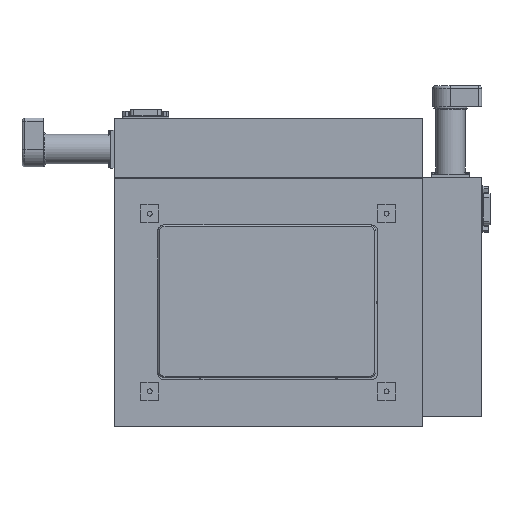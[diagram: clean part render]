
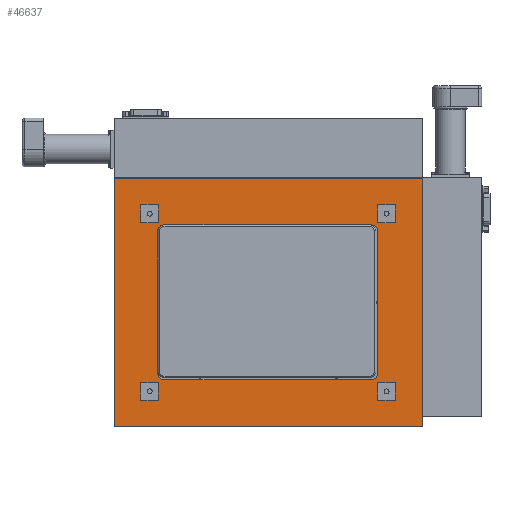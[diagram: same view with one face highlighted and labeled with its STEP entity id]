
A CAD part, top view. The second image highlights one B-rep face of the part: STEP entity #46637.
In plain terms, the highlighted planar face has unit normal (0, 0, 1).
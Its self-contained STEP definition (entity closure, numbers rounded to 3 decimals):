
#2560=FACE_BOUND('',#9785,.T.);
#2561=FACE_BOUND('',#9786,.T.);
#2562=FACE_BOUND('',#9787,.T.);
#2563=FACE_BOUND('',#9788,.T.);
#2564=FACE_BOUND('',#9789,.T.);
#4367=CIRCLE('',#50813,5.);
#4368=CIRCLE('',#50814,5.);
#4369=CIRCLE('',#50815,5.);
#4370=CIRCLE('',#50816,5.);
#6812=FACE_OUTER_BOUND('',#9784,.T.);
#9784=EDGE_LOOP('',(#39907,#39908,#39909,#39910));
#9785=EDGE_LOOP('',(#39911,#39912,#39913,#39914));
#9786=EDGE_LOOP('',(#39915,#39916,#39917,#39918));
#9787=EDGE_LOOP('',(#39919,#39920,#39921,#39922));
#9788=EDGE_LOOP('',(#39923,#39924,#39925,#39926));
#9789=EDGE_LOOP('',(#39927,#39928,#39929,#39930,#39931,#39932,#39933,#39934));
#13351=LINE('',#82274,#16966);
#13352=LINE('',#82276,#16967);
#13353=LINE('',#82278,#16968);
#13354=LINE('',#82279,#16969);
#13355=LINE('',#82282,#16970);
#13356=LINE('',#82284,#16971);
#13357=LINE('',#82286,#16972);
#13358=LINE('',#82287,#16973);
#13359=LINE('',#82290,#16974);
#13360=LINE('',#82292,#16975);
#13361=LINE('',#82294,#16976);
#13362=LINE('',#82295,#16977);
#13363=LINE('',#82298,#16978);
#13364=LINE('',#82300,#16979);
#13365=LINE('',#82302,#16980);
#13366=LINE('',#82303,#16981);
#13367=LINE('',#82306,#16982);
#13368=LINE('',#82308,#16983);
#13369=LINE('',#82310,#16984);
#13370=LINE('',#82311,#16985);
#13371=LINE('',#82314,#16986);
#13372=LINE('',#82318,#16987);
#13373=LINE('',#82322,#16988);
#13374=LINE('',#82326,#16989);
#16966=VECTOR('',#62075,10.);
#16967=VECTOR('',#62076,10.);
#16968=VECTOR('',#62077,10.);
#16969=VECTOR('',#62078,10.);
#16970=VECTOR('',#62079,10.);
#16971=VECTOR('',#62080,10.);
#16972=VECTOR('',#62081,10.);
#16973=VECTOR('',#62082,10.);
#16974=VECTOR('',#62083,10.);
#16975=VECTOR('',#62084,10.);
#16976=VECTOR('',#62085,10.);
#16977=VECTOR('',#62086,10.);
#16978=VECTOR('',#62087,10.);
#16979=VECTOR('',#62088,10.);
#16980=VECTOR('',#62089,10.);
#16981=VECTOR('',#62090,10.);
#16982=VECTOR('',#62091,10.);
#16983=VECTOR('',#62092,10.);
#16984=VECTOR('',#62093,10.);
#16985=VECTOR('',#62094,10.);
#16986=VECTOR('',#62095,10.);
#16987=VECTOR('',#62098,10.);
#16988=VECTOR('',#62101,10.);
#16989=VECTOR('',#62104,10.);
#21254=VERTEX_POINT('',#82272);
#21255=VERTEX_POINT('',#82273);
#21256=VERTEX_POINT('',#82275);
#21257=VERTEX_POINT('',#82277);
#21258=VERTEX_POINT('',#82280);
#21259=VERTEX_POINT('',#82281);
#21260=VERTEX_POINT('',#82283);
#21261=VERTEX_POINT('',#82285);
#21262=VERTEX_POINT('',#82288);
#21263=VERTEX_POINT('',#82289);
#21264=VERTEX_POINT('',#82291);
#21265=VERTEX_POINT('',#82293);
#21266=VERTEX_POINT('',#82296);
#21267=VERTEX_POINT('',#82297);
#21268=VERTEX_POINT('',#82299);
#21269=VERTEX_POINT('',#82301);
#21270=VERTEX_POINT('',#82304);
#21271=VERTEX_POINT('',#82305);
#21272=VERTEX_POINT('',#82307);
#21273=VERTEX_POINT('',#82309);
#21274=VERTEX_POINT('',#82312);
#21275=VERTEX_POINT('',#82313);
#21276=VERTEX_POINT('',#82315);
#21277=VERTEX_POINT('',#82317);
#21278=VERTEX_POINT('',#82319);
#21279=VERTEX_POINT('',#82321);
#21280=VERTEX_POINT('',#82323);
#21281=VERTEX_POINT('',#82325);
#27499=EDGE_CURVE('',#21254,#21255,#13351,.T.);
#27500=EDGE_CURVE('',#21256,#21254,#13352,.T.);
#27501=EDGE_CURVE('',#21257,#21256,#13353,.T.);
#27502=EDGE_CURVE('',#21255,#21257,#13354,.T.);
#27503=EDGE_CURVE('',#21258,#21259,#13355,.T.);
#27504=EDGE_CURVE('',#21260,#21258,#13356,.T.);
#27505=EDGE_CURVE('',#21261,#21260,#13357,.T.);
#27506=EDGE_CURVE('',#21259,#21261,#13358,.T.);
#27507=EDGE_CURVE('',#21262,#21263,#13359,.T.);
#27508=EDGE_CURVE('',#21264,#21262,#13360,.T.);
#27509=EDGE_CURVE('',#21265,#21264,#13361,.T.);
#27510=EDGE_CURVE('',#21263,#21265,#13362,.T.);
#27511=EDGE_CURVE('',#21266,#21267,#13363,.T.);
#27512=EDGE_CURVE('',#21268,#21266,#13364,.T.);
#27513=EDGE_CURVE('',#21269,#21268,#13365,.T.);
#27514=EDGE_CURVE('',#21267,#21269,#13366,.T.);
#27515=EDGE_CURVE('',#21270,#21271,#13367,.T.);
#27516=EDGE_CURVE('',#21272,#21270,#13368,.T.);
#27517=EDGE_CURVE('',#21273,#21272,#13369,.T.);
#27518=EDGE_CURVE('',#21271,#21273,#13370,.T.);
#27519=EDGE_CURVE('',#21274,#21275,#13371,.T.);
#27520=EDGE_CURVE('',#21275,#21276,#4367,.T.);
#27521=EDGE_CURVE('',#21276,#21277,#13372,.T.);
#27522=EDGE_CURVE('',#21277,#21278,#4368,.T.);
#27523=EDGE_CURVE('',#21278,#21279,#13373,.T.);
#27524=EDGE_CURVE('',#21279,#21280,#4369,.T.);
#27525=EDGE_CURVE('',#21280,#21281,#13374,.T.);
#27526=EDGE_CURVE('',#21281,#21274,#4370,.T.);
#39907=ORIENTED_EDGE('',*,*,#27499,.F.);
#39908=ORIENTED_EDGE('',*,*,#27500,.F.);
#39909=ORIENTED_EDGE('',*,*,#27501,.F.);
#39910=ORIENTED_EDGE('',*,*,#27502,.F.);
#39911=ORIENTED_EDGE('',*,*,#27503,.F.);
#39912=ORIENTED_EDGE('',*,*,#27504,.F.);
#39913=ORIENTED_EDGE('',*,*,#27505,.F.);
#39914=ORIENTED_EDGE('',*,*,#27506,.F.);
#39915=ORIENTED_EDGE('',*,*,#27507,.F.);
#39916=ORIENTED_EDGE('',*,*,#27508,.F.);
#39917=ORIENTED_EDGE('',*,*,#27509,.F.);
#39918=ORIENTED_EDGE('',*,*,#27510,.F.);
#39919=ORIENTED_EDGE('',*,*,#27511,.F.);
#39920=ORIENTED_EDGE('',*,*,#27512,.F.);
#39921=ORIENTED_EDGE('',*,*,#27513,.F.);
#39922=ORIENTED_EDGE('',*,*,#27514,.F.);
#39923=ORIENTED_EDGE('',*,*,#27515,.F.);
#39924=ORIENTED_EDGE('',*,*,#27516,.F.);
#39925=ORIENTED_EDGE('',*,*,#27517,.F.);
#39926=ORIENTED_EDGE('',*,*,#27518,.F.);
#39927=ORIENTED_EDGE('',*,*,#27519,.T.);
#39928=ORIENTED_EDGE('',*,*,#27520,.T.);
#39929=ORIENTED_EDGE('',*,*,#27521,.T.);
#39930=ORIENTED_EDGE('',*,*,#27522,.T.);
#39931=ORIENTED_EDGE('',*,*,#27523,.T.);
#39932=ORIENTED_EDGE('',*,*,#27524,.T.);
#39933=ORIENTED_EDGE('',*,*,#27525,.T.);
#39934=ORIENTED_EDGE('',*,*,#27526,.T.);
#41709=PLANE('',#50812);
#46637=ADVANCED_FACE('',(#6812,#2560,#2561,#2562,#2563,#2564),#41709,.T.);
#50812=AXIS2_PLACEMENT_3D('',#82271,#62073,#62074);
#50813=AXIS2_PLACEMENT_3D('',#82316,#62096,#62097);
#50814=AXIS2_PLACEMENT_3D('',#82320,#62099,#62100);
#50815=AXIS2_PLACEMENT_3D('',#82324,#62102,#62103);
#50816=AXIS2_PLACEMENT_3D('',#82327,#62105,#62106);
#62073=DIRECTION('center_axis',(0.,0.,
1.));
#62074=DIRECTION('ref_axis',(1.,0.,0.));
#62075=DIRECTION('',(0.,-1.,0.));
#62076=DIRECTION('',(1.,0.,0.));
#62077=DIRECTION('',(0.,1.,0.));
#62078=DIRECTION('',(-1.,0.,0.));
#62079=DIRECTION('',(-1.,0.,0.));
#62080=DIRECTION('',(0.,1.,0.));
#62081=DIRECTION('',(1.,0.,0.));
#62082=DIRECTION('',(0.,-1.,0.));
#62083=DIRECTION('',(-1.,0.,0.));
#62084=DIRECTION('',(0.,1.,0.));
#62085=DIRECTION('',(1.,0.,0.));
#62086=DIRECTION('',(0.,-1.,0.));
#62087=DIRECTION('',(-1.,0.,0.));
#62088=DIRECTION('',(0.,1.,0.));
#62089=DIRECTION('',(1.,0.,0.));
#62090=DIRECTION('',(0.,-1.,0.));
#62091=DIRECTION('',(-1.,0.,0.));
#62092=DIRECTION('',(0.,1.,0.));
#62093=DIRECTION('',(1.,0.,0.));
#62094=DIRECTION('',(0.,-1.,0.));
#62095=DIRECTION('',(0.,1.,0.));
#62096=DIRECTION('center_axis',(0.,0.,
-1.));
#62097=DIRECTION('ref_axis',(0.,1.,0.));
#62098=DIRECTION('',(1.,0.,0.));
#62099=DIRECTION('center_axis',(0.,0.,
-1.));
#62100=DIRECTION('ref_axis',(1.,0.,0.));
#62101=DIRECTION('',(0.,-1.,0.));
#62102=DIRECTION('center_axis',(0.,0.,
-1.));
#62103=DIRECTION('ref_axis',(0.,-1.,0.));
#62104=DIRECTION('',(-1.,0.,0.));
#62105=DIRECTION('center_axis',(0.,0.,
-1.));
#62106=DIRECTION('ref_axis',(-1.,0.,0.));
#82271=CARTESIAN_POINT('Origin',(0.,-0.25,
59.5));
#82272=CARTESIAN_POINT('',(130.,104.5,59.5));
#82273=CARTESIAN_POINT('',(130.,-105.,59.5));
#82274=CARTESIAN_POINT('',(130.,-0.25,59.5));
#82275=CARTESIAN_POINT('',(-130.,104.5,59.5));
#82276=CARTESIAN_POINT('',(-65.,104.5,59.5));
#82277=CARTESIAN_POINT('',(-130.,-105.,59.5));
#82278=CARTESIAN_POINT('',(-130.,-0.25,59.5));
#82279=CARTESIAN_POINT('',(-65.,-105.,59.5));
#82280=CARTESIAN_POINT('',(-92.5,82.,59.5));
#82281=CARTESIAN_POINT('',(-107.5,82.,59.5));
#82282=CARTESIAN_POINT('',(-46.25,82.,59.5));
#82283=CARTESIAN_POINT('',(-92.5,67.,59.5));
#82284=CARTESIAN_POINT('',(-92.5,33.375,59.5));
#82285=CARTESIAN_POINT('',(-107.5,67.,59.5));
#82286=CARTESIAN_POINT('',(-53.75,67.,59.5));
#82287=CARTESIAN_POINT('',(-107.5,40.875,59.5));
#82288=CARTESIAN_POINT('',(107.5,82.,59.5));
#82289=CARTESIAN_POINT('',(92.5,82.,59.5));
#82290=CARTESIAN_POINT('',(53.75,82.,59.5));
#82291=CARTESIAN_POINT('',(107.5,67.,59.5));
#82292=CARTESIAN_POINT('',(107.5,33.375,59.5));
#82293=CARTESIAN_POINT('',(92.5,67.,59.5));
#82294=CARTESIAN_POINT('',(46.25,67.,59.5));
#82295=CARTESIAN_POINT('',(92.5,40.875,59.5));
#82296=CARTESIAN_POINT('',(-92.5,-68.,59.5));
#82297=CARTESIAN_POINT('',(-107.5,-68.,59.5));
#82298=CARTESIAN_POINT('',(-46.25,-68.,59.5));
#82299=CARTESIAN_POINT('',(-92.5,-83.,59.5));
#82300=CARTESIAN_POINT('',(-92.5,-41.625,59.5));
#82301=CARTESIAN_POINT('',(-107.5,-83.,59.5));
#82302=CARTESIAN_POINT('',(-53.75,-83.,59.5));
#82303=CARTESIAN_POINT('',(-107.5,-34.125,59.5));
#82304=CARTESIAN_POINT('',(107.5,-68.,59.5));
#82305=CARTESIAN_POINT('',(92.5,-68.,59.5));
#82306=CARTESIAN_POINT('',(53.75,-68.,59.5));
#82307=CARTESIAN_POINT('',(107.5,-83.,59.5));
#82308=CARTESIAN_POINT('',(107.5,-41.625,59.5));
#82309=CARTESIAN_POINT('',(92.5,-83.,59.5));
#82310=CARTESIAN_POINT('',(46.25,-83.,59.5));
#82311=CARTESIAN_POINT('',(92.5,-34.125,59.5));
#82312=CARTESIAN_POINT('',(-93.,-60.5,59.5));
#82313=CARTESIAN_POINT('',(-93.,60.,59.5));
#82314=CARTESIAN_POINT('',(-93.,29.875,59.5));
#82315=CARTESIAN_POINT('',(-88.,65.,59.5));
#82316=CARTESIAN_POINT('Origin',(-88.,60.,59.5));
#82317=CARTESIAN_POINT('',(87.5,65.,59.5));
#82318=CARTESIAN_POINT('',(43.75,65.,59.5));
#82319=CARTESIAN_POINT('',(92.5,60.,59.5));
#82320=CARTESIAN_POINT('Origin',(87.5,60.,59.5));
#82321=CARTESIAN_POINT('',(92.5,-60.5,59.5));
#82322=CARTESIAN_POINT('',(92.5,-30.375,59.5));
#82323=CARTESIAN_POINT('',(87.5,-65.5,59.5));
#82324=CARTESIAN_POINT('Origin',(87.5,-60.5,59.5));
#82325=CARTESIAN_POINT('',(-88.,-65.5,59.5));
#82326=CARTESIAN_POINT('',(-44.,-65.5,59.5));
#82327=CARTESIAN_POINT('Origin',(-88.,-60.5,59.5));
